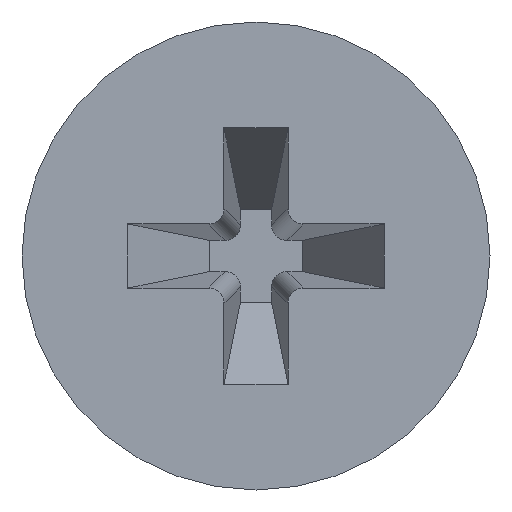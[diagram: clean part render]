
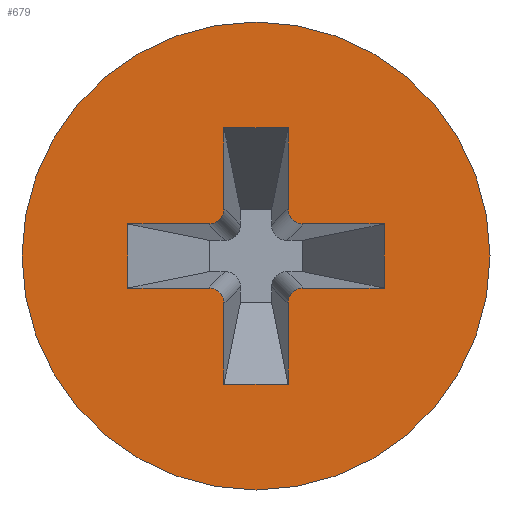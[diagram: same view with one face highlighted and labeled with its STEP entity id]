
A CAD part, left-side view. The second image highlights one B-rep face of the part: STEP entity #679.
In plain terms, the highlighted planar face has unit normal (-1, 0, 0).
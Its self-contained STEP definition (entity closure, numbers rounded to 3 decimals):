
#3 = CARTESIAN_POINT ( 'NONE',  ( 0., -0.85, -0.85 ) ) ;
#6 = CARTESIAN_POINT ( 'NONE',  ( 0., 2.3, -0.575 ) ) ;
#8 = CARTESIAN_POINT ( 'NONE',  ( 0., -2.3, -0.575 ) ) ;
#14 = EDGE_CURVE ( 'NONE', #681, #720, #314, .T. ) ;
#16 = VERTEX_POINT ( 'NONE', #252 ) ;
#18 = CARTESIAN_POINT ( 'NONE',  ( 0., 2.3, -0.575 ) ) ;
#25 = CARTESIAN_POINT ( 'NONE',  ( 0., -0.575, -2.3 ) ) ;
#26 = CARTESIAN_POINT ( 'NONE',  ( 0., 0.85, 0.575 ) ) ;
#28 = VERTEX_POINT ( 'NONE', #255 ) ;
#58 = CARTESIAN_POINT ( 'NONE',  ( 0., -0.575, 2.3 ) ) ;
#64 = VERTEX_POINT ( 'NONE', #318 ) ;
#69 = EDGE_CURVE ( 'NONE', #510, #681, #146, .T. ) ;
#70 = VECTOR ( 'NONE', #623, 1000. ) ;
#71 = CARTESIAN_POINT ( 'NONE',  ( 0., 0.575, -2.3 ) ) ;
#72 = AXIS2_PLACEMENT_3D ( 'NONE', #3, #170, #583 ) ;
#97 = LINE ( 'NONE', #317, #490 ) ;
#103 = VERTEX_POINT ( 'NONE', #25 ) ;
#118 = CARTESIAN_POINT ( 'NONE',  ( 0., -2.3, 0.575 ) ) ;
#123 = EDGE_CURVE ( 'NONE', #720, #64, #569, .T. ) ;
#124 = CARTESIAN_POINT ( 'NONE',  ( 0., 0., -4.2 ) ) ;
#128 = CARTESIAN_POINT ( 'NONE',  ( 0., 0.85, 0.85 ) ) ;
#135 = CARTESIAN_POINT ( 'NONE',  ( 0., 0.575, -0.85 ) ) ;
#136 = LINE ( 'NONE', #8, #296 ) ;
#141 = CIRCLE ( 'NONE', #72, 0.275 ) ;
#146 = LINE ( 'NONE', #249, #376 ) ;
#152 = LINE ( 'NONE', #638, #461 ) ;
#157 = ORIENTED_EDGE ( 'NONE', *, *, #366, .F. ) ;
#158 = FACE_BOUND ( 'NONE', #165, .T. ) ;
#165 = EDGE_LOOP ( 'NONE', ( #486, #416, #603, #216, #363, #229, #702, #157, #640, #450, #507, #617, #672, #342, #746, #469 ) ) ;
#166 = EDGE_CURVE ( 'NONE', #103, #754, #152, .T. ) ;
#167 = PLANE ( 'NONE',  #378 ) ;
#170 = DIRECTION ( 'NONE',  ( 1., 0., 0. ) ) ;
#176 = ORIENTED_EDGE ( 'NONE', *, *, #289, .F. ) ;
#178 = LINE ( 'NONE', #377, #741 ) ;
#184 = AXIS2_PLACEMENT_3D ( 'NONE', #430, #550, #189 ) ;
#187 = DIRECTION ( 'NONE',  ( 1., 0., 0. ) ) ;
#189 = DIRECTION ( 'NONE',  ( 0., 0., -1. ) ) ;
#201 = CARTESIAN_POINT ( 'NONE',  ( 0., 2.3, 0.575 ) ) ;
#202 = CARTESIAN_POINT ( 'NONE',  ( 0., 0.575, 0.575 ) ) ;
#209 = LINE ( 'NONE', #385, #70 ) ;
#216 = ORIENTED_EDGE ( 'NONE', *, *, #69, .F. ) ;
#220 = VECTOR ( 'NONE', #726, 1000. ) ;
#229 = ORIENTED_EDGE ( 'NONE', *, *, #470, .F. ) ;
#235 = CARTESIAN_POINT ( 'NONE',  ( 0., 0.575, 2.3 ) ) ;
#237 = AXIS2_PLACEMENT_3D ( 'NONE', #128, #187, #243 ) ;
#238 = DIRECTION ( 'NONE',  ( 0., 0., 1. ) ) ;
#241 = CARTESIAN_POINT ( 'NONE',  ( 0., -0.575, -0.575 ) ) ;
#243 = DIRECTION ( 'NONE',  ( 0., 0., 1. ) ) ;
#244 = DIRECTION ( 'NONE',  ( 0., -1., 0. ) ) ;
#249 = CARTESIAN_POINT ( 'NONE',  ( 0., -0.575, 0.575 ) ) ;
#251 = LINE ( 'NONE', #241, #220 ) ;
#252 = CARTESIAN_POINT ( 'NONE',  ( 0., 0.575, -2.3 ) ) ;
#254 = EDGE_CURVE ( 'NONE', #698, #16, #178, .T. ) ;
#255 = CARTESIAN_POINT ( 'NONE',  ( 0., -2.3, -0.575 ) ) ;
#256 = VERTEX_POINT ( 'NONE', #26 ) ;
#258 = VECTOR ( 'NONE', #369, 1000. ) ;
#259 = DIRECTION ( 'NONE',  ( 0., 1., 0. ) ) ;
#289 = EDGE_CURVE ( 'NONE', #651, #651, #576, .T. ) ;
#296 = VECTOR ( 'NONE', #238, 1000. ) ;
#302 = LINE ( 'NONE', #18, #424 ) ;
#303 = EDGE_CURVE ( 'NONE', #477, #698, #350, .T. ) ;
#312 = EDGE_CURVE ( 'NONE', #16, #103, #480, .T. ) ;
#314 = LINE ( 'NONE', #613, #668 ) ;
#317 = CARTESIAN_POINT ( 'NONE',  ( 0., -0.575, 0.575 ) ) ;
#318 = CARTESIAN_POINT ( 'NONE',  ( 0., 0.575, 0.85 ) ) ;
#323 = CARTESIAN_POINT ( 'NONE',  ( 0., -0.85, 0.85 ) ) ;
#340 = DIRECTION ( 'NONE',  ( 0., 0., 1. ) ) ;
#342 = ORIENTED_EDGE ( 'NONE', *, *, #380, .F. ) ;
#344 = EDGE_CURVE ( 'NONE', #28, #542, #136, .T. ) ;
#348 = CARTESIAN_POINT ( 'NONE',  ( 0., 0., 0. ) ) ;
#350 = CIRCLE ( 'NONE', #184, 0.275 ) ;
#353 = CARTESIAN_POINT ( 'NONE',  ( 0., -0.85, -0.575 ) ) ;
#362 = DIRECTION ( 'NONE',  ( 1., 0., 0. ) ) ;
#363 = ORIENTED_EDGE ( 'NONE', *, *, #485, .F. ) ;
#366 = EDGE_CURVE ( 'NONE', #614, #28, #251, .T. ) ;
#369 = DIRECTION ( 'NONE',  ( 0., 0., -1. ) ) ;
#376 = VECTOR ( 'NONE', #384, 1000. ) ;
#377 = CARTESIAN_POINT ( 'NONE',  ( 0., 0.575, -0.575 ) ) ;
#378 = AXIS2_PLACEMENT_3D ( 'NONE', #348, #398, #633 ) ;
#380 = EDGE_CURVE ( 'NONE', #413, #477, #302, .T. ) ;
#384 = DIRECTION ( 'NONE',  ( 0., 0., 1. ) ) ;
#385 = CARTESIAN_POINT ( 'NONE',  ( 0., 2.3, 0.575 ) ) ;
#390 = CARTESIAN_POINT ( 'NONE',  ( 0., 2.3, -0.575 ) ) ;
#394 = DIRECTION ( 'NONE',  ( 0., 0., 1. ) ) ;
#398 = DIRECTION ( 'NONE',  ( -1., 0., 0. ) ) ;
#410 = CARTESIAN_POINT ( 'NONE',  ( 0., -0.85, 0.575 ) ) ;
#413 = VERTEX_POINT ( 'NONE', #390 ) ;
#416 = ORIENTED_EDGE ( 'NONE', *, *, #123, .F. ) ;
#419 = VERTEX_POINT ( 'NONE', #201 ) ;
#424 = VECTOR ( 'NONE', #244, 1000. ) ;
#430 = CARTESIAN_POINT ( 'NONE',  ( 0., 0.85, -0.85 ) ) ;
#436 = AXIS2_PLACEMENT_3D ( 'NONE', #655, #362, #599 ) ;
#450 = ORIENTED_EDGE ( 'NONE', *, *, #166, .F. ) ;
#451 = DIRECTION ( 'NONE',  ( 1., 0., 0. ) ) ;
#461 = VECTOR ( 'NONE', #340, 1000. ) ;
#469 = ORIENTED_EDGE ( 'NONE', *, *, #481, .F. ) ;
#470 = EDGE_CURVE ( 'NONE', #542, #533, #97, .T. ) ;
#471 = CARTESIAN_POINT ( 'NONE',  ( 0., -0.575, 0.85 ) ) ;
#477 = VERTEX_POINT ( 'NONE', #744 ) ;
#480 = LINE ( 'NONE', #71, #632 ) ;
#481 = EDGE_CURVE ( 'NONE', #256, #419, #209, .T. ) ;
#485 = EDGE_CURVE ( 'NONE', #533, #510, #589, .T. ) ;
#486 = ORIENTED_EDGE ( 'NONE', *, *, #688, .F. ) ;
#490 = VECTOR ( 'NONE', #499, 1000. ) ;
#494 = EDGE_LOOP ( 'NONE', ( #176 ) ) ;
#499 = DIRECTION ( 'NONE',  ( 0., 1., 0. ) ) ;
#501 = AXIS2_PLACEMENT_3D ( 'NONE', #323, #451, #394 ) ;
#507 = ORIENTED_EDGE ( 'NONE', *, *, #312, .F. ) ;
#510 = VERTEX_POINT ( 'NONE', #471 ) ;
#528 = EDGE_CURVE ( 'NONE', #754, #614, #141, .T. ) ;
#533 = VERTEX_POINT ( 'NONE', #410 ) ;
#542 = VERTEX_POINT ( 'NONE', #118 ) ;
#549 = LINE ( 'NONE', #6, #258 ) ;
#550 = DIRECTION ( 'NONE',  ( 1., 0., 0. ) ) ;
#564 = VECTOR ( 'NONE', #748, 1000. ) ;
#569 = LINE ( 'NONE', #202, #564 ) ;
#576 = CIRCLE ( 'NONE', #436, 4.2 ) ;
#583 = DIRECTION ( 'NONE',  ( 0., 0., -1. ) ) ;
#588 = FACE_OUTER_BOUND ( 'NONE', #494, .T. ) ;
#589 = CIRCLE ( 'NONE', #501, 0.275 ) ;
#596 = CARTESIAN_POINT ( 'NONE',  ( 0., -0.575, -0.85 ) ) ;
#599 = DIRECTION ( 'NONE',  ( 0., 0., -1. ) ) ;
#603 = ORIENTED_EDGE ( 'NONE', *, *, #14, .F. ) ;
#613 = CARTESIAN_POINT ( 'NONE',  ( 0., 0.575, 2.3 ) ) ;
#614 = VERTEX_POINT ( 'NONE', #353 ) ;
#617 = ORIENTED_EDGE ( 'NONE', *, *, #254, .F. ) ;
#623 = DIRECTION ( 'NONE',  ( 0., 1., 0. ) ) ;
#632 = VECTOR ( 'NONE', #663, 1000. ) ;
#633 = DIRECTION ( 'NONE',  ( 0., 0., 1. ) ) ;
#638 = CARTESIAN_POINT ( 'NONE',  ( 0., -0.575, -0.575 ) ) ;
#640 = ORIENTED_EDGE ( 'NONE', *, *, #528, .F. ) ;
#651 = VERTEX_POINT ( 'NONE', #124 ) ;
#655 = CARTESIAN_POINT ( 'NONE',  ( 0., 0., 0. ) ) ;
#660 = DIRECTION ( 'NONE',  ( 0., 0., -1. ) ) ;
#663 = DIRECTION ( 'NONE',  ( 0., -1., 0. ) ) ;
#668 = VECTOR ( 'NONE', #259, 1000. ) ;
#672 = ORIENTED_EDGE ( 'NONE', *, *, #303, .F. ) ;
#679 = ADVANCED_FACE ( 'NONE', ( #158, #588 ), #167, .T. ) ;
#681 = VERTEX_POINT ( 'NONE', #58 ) ;
#688 = EDGE_CURVE ( 'NONE', #64, #256, #743, .T. ) ;
#698 = VERTEX_POINT ( 'NONE', #135 ) ;
#702 = ORIENTED_EDGE ( 'NONE', *, *, #344, .F. ) ;
#715 = EDGE_CURVE ( 'NONE', #419, #413, #549, .T. ) ;
#720 = VERTEX_POINT ( 'NONE', #235 ) ;
#726 = DIRECTION ( 'NONE',  ( 0., -1., 0. ) ) ;
#741 = VECTOR ( 'NONE', #660, 1000. ) ;
#743 = CIRCLE ( 'NONE', #237, 0.275 ) ;
#744 = CARTESIAN_POINT ( 'NONE',  ( 0., 0.85, -0.575 ) ) ;
#746 = ORIENTED_EDGE ( 'NONE', *, *, #715, .F. ) ;
#748 = DIRECTION ( 'NONE',  ( 0., 0., -1. ) ) ;
#754 = VERTEX_POINT ( 'NONE', #596 ) ;
